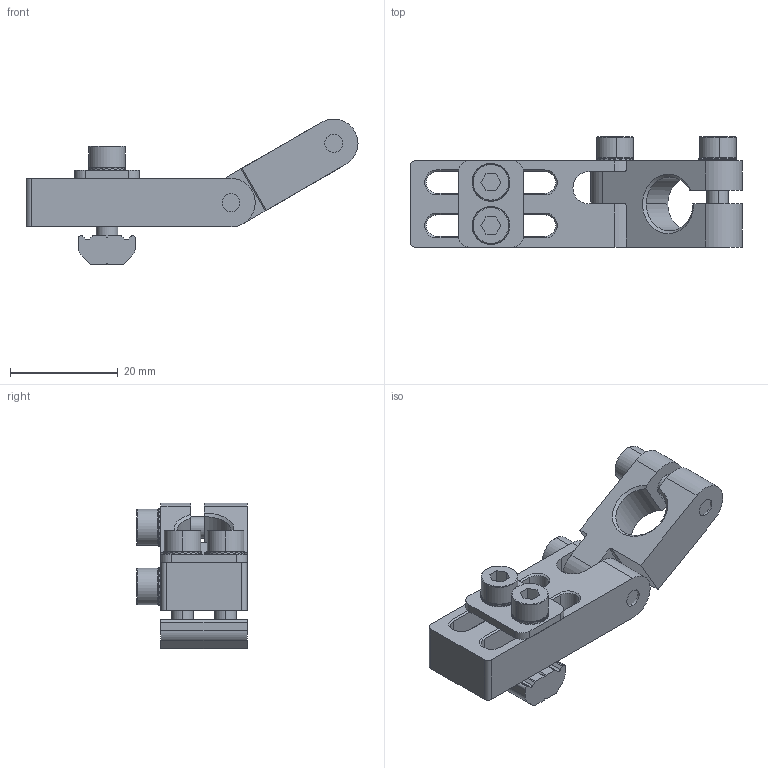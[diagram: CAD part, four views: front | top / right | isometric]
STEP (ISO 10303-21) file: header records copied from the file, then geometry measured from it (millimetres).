
FILE_DESCRIPTION (( 'STEP AP214' ), '1' );
FILE_NAME ('SMBE3-1020.STEP', '2019-11-01T02:25:28', ( '微软用户' ), ( '微软中国' ), 'SwSTEP 2.0', 'SolidWorks 2016', '' );
FILE_SCHEMA (( 'AUTOMOTIVE_DESIGN' ));
Length unit declared in the file: millimetre
Products named in the file (8): PTC-M4L16; PTC-M4L18; PTS-M4; PTN-M4P8; PTD-M4P8; SMBE3-1020-2; SMBE3-1020-1; SMBE3-1020
Assembly tree (12 placements, depth 2):
  SMBE3-1020
    SMBE3-1020-1
    SMBE3-1020-2
    PTD-M4P8
    PTN-M4P8
    PTS-M4  x4
    PTC-M4L18  x2
    PTC-M4L16  x2
Bounding box: 61.55 x 20.45 x 27.05 mm (x, y, z)
Volume: 8251.5 mm3; surface area: 7813.6 mm2
Topology: 12 solids, 12 shells, 881 faces, 2534 edges, 1673 vertices
Faces by surface type: plane 743, cylinder 91, cone 47
Entity records: 11777 total; most frequent: CARTESIAN_POINT 2173, DIRECTION 2001, ORIENTED_EDGE 1948, EDGE_CURVE 974, AXIS2_PLACEMENT_3D 697, VERTEX_POINT 637, LINE 607, VECTOR 607
